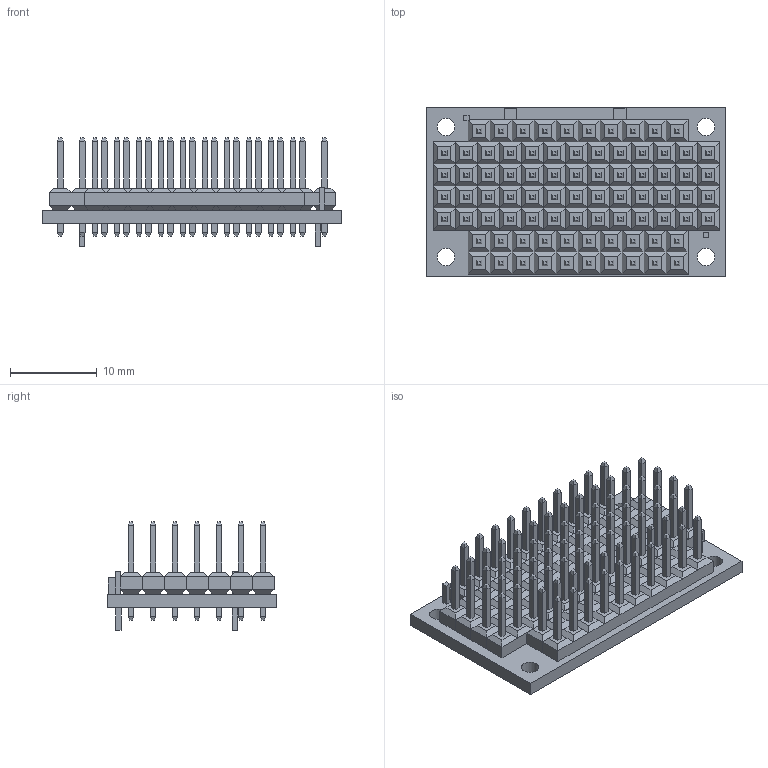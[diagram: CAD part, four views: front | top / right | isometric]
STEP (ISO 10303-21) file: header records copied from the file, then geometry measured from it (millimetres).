
FILE_DESCRIPTION(/* description */ (''),/* implementation_level */ '2;1');
FILE_NAME(/* name */ 'C:/Users/priba/Documents/Temp/Export/mrm-distrib-d.step',/* time_stamp */ '2019-09-09T12:39:53+02:00',/* author */ (''),/* organization */ (''),/* preprocessor_version */ 'ST-DEVELOPER v18',/* originating_system */ 'Autodesk Translation Framework v8.6.0.1094',/* authorisation */ '');
FILE_SCHEMA (('AUTOMOTIVE_DESIGN { 1 0 10303 214 3 1 1 }'));
Length unit declared in the file: millimetre
Products named in the file (7): mrm-distrib-d; PCB Component; Board; FIDUCIALUFIDUCIAL; 1X13; 1X10; JUMPER-SMT_2_NO_NO-SILK
Assembly tree (15 placements, depth 3):
  mrm-distrib-d
    PCB Component
      Board
      FIDUCIALUFIDUCIAL  x4
      1X13  x4
      1X10  x3
      JUMPER-SMT_2_NO_NO-SILK  x2
Bounding box: 34.6 x 19.6 x 12.56 mm (x, y, z)
Volume: 2394.1 mm3; surface area: 5673.6 mm2
Topology: 14 solids, 14 shells, 2452 faces, 5468 edges, 3208 vertices
Faces by surface type: plane 2366, cylinder 86
Full cylindrical faces by diameter (mm): 1.016 x82, 2 x4
Entity records: 21910 total; most frequent: CARTESIAN_POINT 3542, ORIENTED_EDGE 3464, DIRECTION 3460, EDGE_CURVE 1732, LINE 1560, VECTOR 1560, VERTEX_POINT 1032, EDGE_LOOP 974
